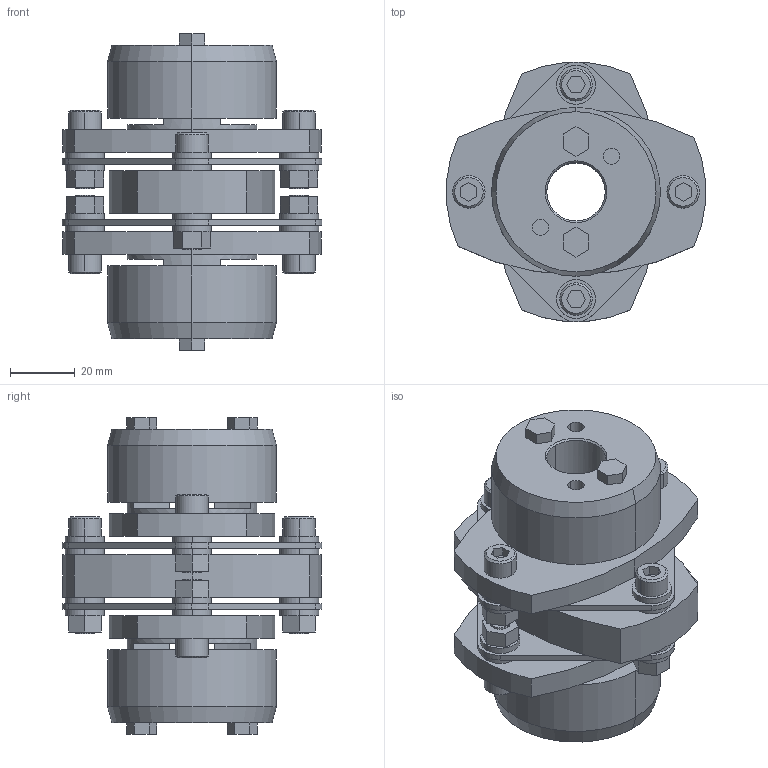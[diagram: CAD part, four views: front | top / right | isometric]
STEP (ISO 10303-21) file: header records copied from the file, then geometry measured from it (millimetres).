
FILE_DESCRIPTION((''),'2;1');
FILE_NAME('LCD-80T7-18×18.stp','2011-09-12T17:12:13',(''),(''),'AutoCAD STEP 2000i','AutoCAD 2000i',', , ');
FILE_SCHEMA(('CONFIG_CONTROL_DESIGN'));
Length unit declared in the file: millimetre
Products named in the file (5): LCD-80T7-17×17; 忣兜1; LC80T7-T017-1; LC80T7-T017; LCD80-ITA
Assembly tree (4 placements, depth 2):
  LCD-80T7-17×17
    忣兜1
    LC80T7-T017-1
    LC80T7-T017
    LCD80-ITA
Bounding box: 80 x 79.95 x 97.5 mm (x, y, z)
Volume: 182132.5 mm3; surface area: 56739.4 mm2
Topology: 1 solids, 1 shells, 306 faces, 744 edges, 488 vertices
Faces by surface type: plane 162, cylinder 120, cone 24
Entity records: 9219 total; most frequent: DIRECTION 1646, CARTESIAN_POINT 1543, ORIENTED_EDGE 1488, EDGE_CURVE 744, AXIS2_PLACEMENT_3D 591, VERTEX_POINT 488, VECTOR 464, LINE 464
